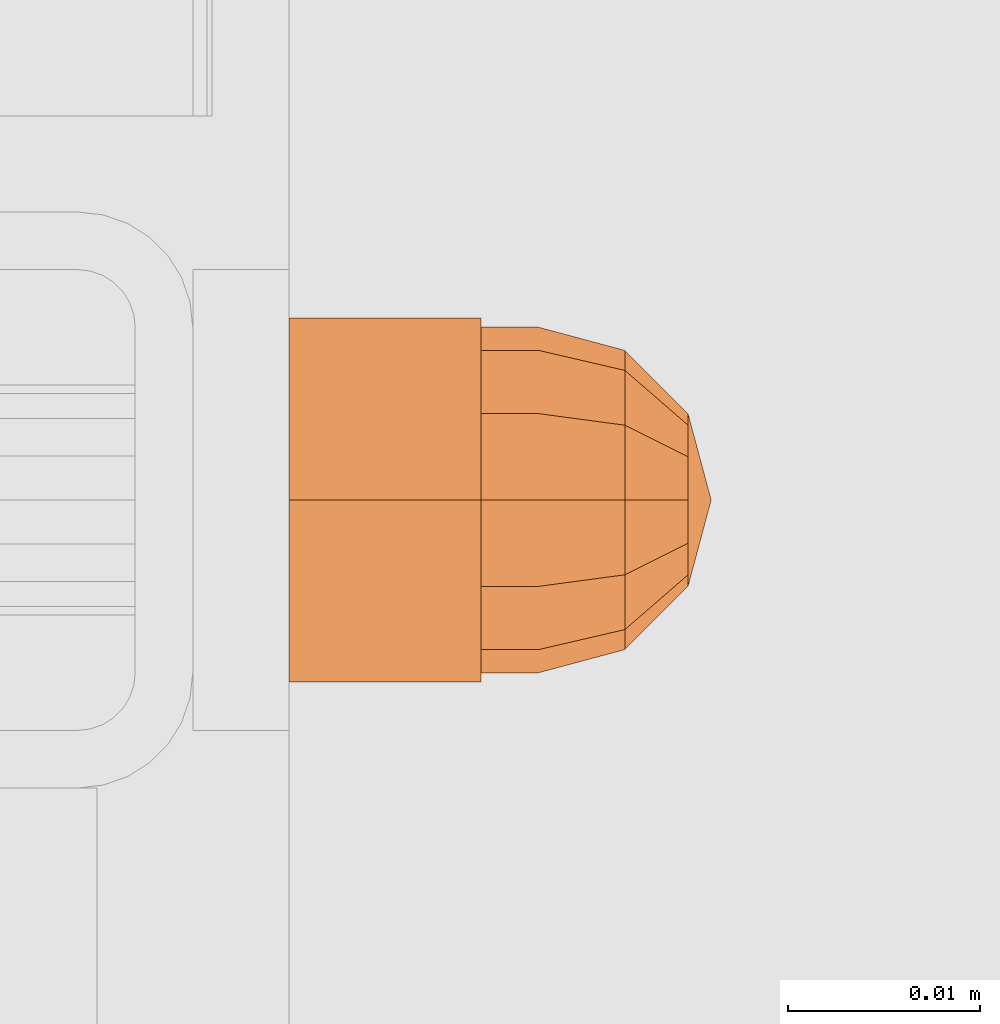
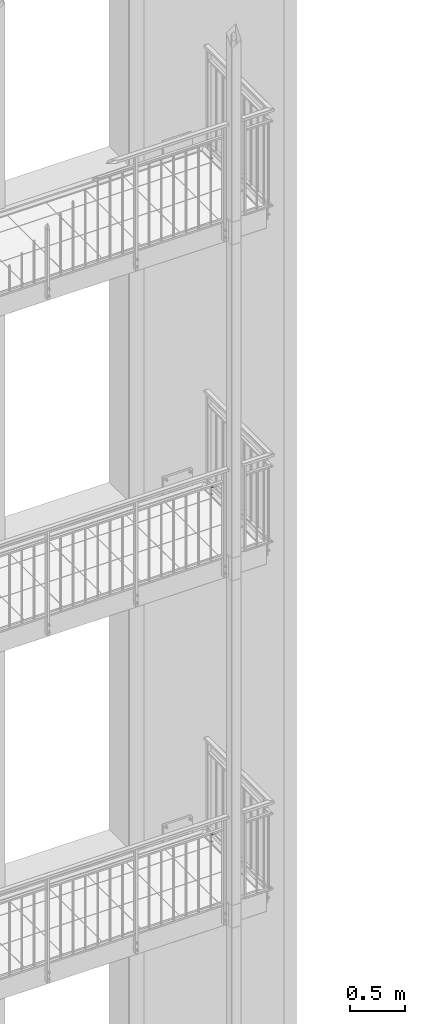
# One storey, part 161 of 162: 5 proxies.
"""IFC2X3 building model written with IfcOpenShell, lengths in millimetres."""

import ifcopenshell
import ifcopenshell.guid

model = None  # the IFC model being written
_history = None  # IfcOwnerHistory: only IFC2X3 demands one
_inside = {}  # id of a spatial element -> (the spatial element, [elements in it])
_under = {}  # id of a project, library or spatial element -> (it, [spatial elements below it])
_declared = {}  # id of a project -> (the project, [libraries it declares])
_typed = {}  # id of a type object -> (the type object, [elements of that type])
_made_of = {}  # id of a material, layer set ... -> (it, [elements and type objects made of it])


def new_model(schema):
    """Start an empty IFC model of exactly this schema.

    Asked for "IFC4X3", IfcOpenShell would pick the latest addendum, in which some entities
    have other attributes; the version numbers below select the first issue.
    IFC2X3 requires an IfcOwnerHistory on every rooted entity: one is made here for all.
    """
    global model, _history
    if schema == "IFC4X3":
        model = ifcopenshell.file(schema_version=(4, 3, 0, 0))
    else:
        model = ifcopenshell.file(schema=schema)
    _inside.clear()
    _under.clear()
    _declared.clear()
    _typed.clear()
    _made_of.clear()
    _history = None
    if model.schema == "IFC2X3":
        org = make("IfcOrganization", Name="unknown")
        user = make(
            "IfcPersonAndOrganization",
            ThePerson=make("IfcPerson", FamilyName="unknown"),
            TheOrganization=org,
        )
        app = make(
            "IfcApplication",
            ApplicationDeveloper=org,
            Version="unknown",
            ApplicationFullName="unknown",
            ApplicationIdentifier="unknown",
        )
        _history = make(
            "IfcOwnerHistory",
            OwningUser=user,
            OwningApplication=app,
            ChangeAction="ADDED",
            CreationDate=0,
        )
    return model


def make(cls, **values):
    """One entity of the class cls with the attributes given. An attribute that is None is left unset."""
    return model.create_entity(
        cls, **{name: value for name, value in values.items() if value is not None}
    )


def entity(cls, *values):
    """Any entity or typed value of the class cls, its attributes in the order of the schema. None: left unset."""
    e = model.create_entity(cls)
    for i, value in enumerate(values):
        if value is not None:
            e[i] = value
    return e


def rooted(cls, **values):
    """An entity with a GlobalId (a new one), such as an element, a storey or a relation."""
    return make(cls, GlobalId=ifcopenshell.guid.new(), OwnerHistory=_history, **values)


def si_unit(unit_type, name, prefix=None):
    """IfcSIUnit, for example si_unit("LENGTHUNIT", "METRE", prefix="MILLI")."""
    return make("IfcSIUnit", UnitType=unit_type, Prefix=prefix, Name=name)


def converted_unit(unit_type, name, factor, base, dimensions=None, offset=None):
    """IfcConversionBasedUnit, such as the inch: factor (a typed value) times the base unit."""
    return make(
        "IfcConversionBasedUnit"
        if offset is None
        else "IfcConversionBasedUnitWithOffset",
        ConversionOffset=offset,
        Dimensions=None
        if dimensions is None
        else entity("IfcDimensionalExponents", *dimensions),
        UnitType=unit_type,
        Name=name,
        ConversionFactor=make(
            "IfcMeasureWithUnit", ValueComponent=factor, UnitComponent=base
        ),
    )


def assignment(units):
    """IfcUnitAssignment: the units of a project."""
    return None if units is None else make("IfcUnitAssignment", Units=units)


def point(xyz):
    """IfcCartesianPoint."""
    return None if xyz is None else make("IfcCartesianPoint", Coordinates=xyz)


def direction(xyz):
    """IfcDirection."""
    return None if xyz is None else make("IfcDirection", DirectionRatios=xyz)


def frame(location, z_axis=None, x_axis=None):
    """IfcAxis2Placement3D, a coordinate frame: its origin and axes. An axis left out is left unset."""
    return make(
        "IfcAxis2Placement3D",
        Location=point(location),
        Axis=direction(z_axis),
        RefDirection=direction(x_axis),
    )


def origin_with_axes():
    """The frame at (0, 0, 0) with the z axis (0, 0, 1) and the x axis (1, 0, 0) written out."""
    return frame((0.0, 0.0, 0.0), z_axis=(0.0, 0.0, 1.0), x_axis=(1.0, 0.0, 0.0))


def place(relative_to, where):
    """IfcLocalPlacement: puts the frame where relative to a parent placement (None: the world)."""
    return make(
        "IfcLocalPlacement", PlacementRelTo=relative_to, RelativePlacement=where
    )


def context(
    kind, dimensions, precision=None, world=None, true_north=None, identifier=None
):
    """IfcGeometricRepresentationContext, for example the 3D "Model" context."""
    return make(
        "IfcGeometricRepresentationContext",
        ContextIdentifier=identifier,
        ContextType=kind,
        CoordinateSpaceDimension=dimensions,
        Precision=precision,
        WorldCoordinateSystem=world,
        TrueNorth=true_north,
    )


def project(units=None, contexts=None):
    """IfcProject with its units and contexts."""
    return rooted(
        "IfcProject",
        Name="project",
        RepresentationContexts=contexts,
        UnitsInContext=assignment(units),
    )


def spatial(cls, under=None, at=None, **own):
    """A site, building, storey or space (cls), placed at a placement, below another one or the project."""
    s = rooted(cls, ObjectPlacement=at, **own)
    if under is not None:
        _under.setdefault(under.id(), (under, []))[1].append(s)
    return s


def faces_of(points, faces, orient=None, outer=None):
    """IfcFace entities. A face is a list of loops; a loop is a list of indices into points, from 0.

    orient and outer hold one flag for each loop. By default every Orientation is true, the
    first loop of a face is its IfcFaceOuterBound and the others are IfcFaceBound.
    """
    made = []
    for i, loops in enumerate(faces):
        bounds = []
        for j, loop in enumerate(loops):
            is_outer = j == 0 if outer is None else outer[i][j]
            bounds.append(
                make(
                    "IfcFaceOuterBound" if is_outer else "IfcFaceBound",
                    Bound=make("IfcPolyLoop", Polygon=[points[k] for k in loop]),
                    Orientation=True if orient is None else orient[i][j],
                )
            )
        made.append(make("IfcFace", Bounds=bounds))
    return made


def faceted_brep(points, faces, orient=None, outer=None, voids=None):
    """IfcFacetedBrep: a solid bounded by flat faces; with voids (closed shells), ...WithVoids."""
    shared = [point(p) for p in points]
    hull = make("IfcClosedShell", CfsFaces=faces_of(shared, faces, orient, outer))
    if voids is None:
        return make("IfcFacetedBrep", Outer=hull)
    return make(
        "IfcFacetedBrepWithVoids",
        Outer=hull,
        Voids=[
            make(cls, CfsFaces=faces_of(shared, fs, o, b)) for cls, fs, o, b in voids
        ],
    )


def shape(context_of_items, identifier, shape_type, items):
    """IfcShapeRepresentation: the items that make up one representation, for example the "Body"."""
    return make(
        "IfcShapeRepresentation",
        ContextOfItems=context_of_items,
        RepresentationIdentifier=identifier,
        RepresentationType=shape_type,
        Items=items,
    )


def material(Name=None, Category=None):
    """IfcMaterial."""
    return make("IfcMaterial", Name=Name, Category=Category)


def made_of(thing, what):
    """Note that an element or type object is made of a material, layer set ...; save() writes the relation."""
    if what is not None:
        _made_of.setdefault(what.id(), (what, []))[1].append(thing)
    return thing


def element(
    cls,
    number,
    at=None,
    inside=None,
    cuts=None,
    type_object=None,
    material=None,
    context=None,
    identifier="Body",
    shape_type=None,
    held_by="IfcProductDefinitionShape",
    body=None,
    shapes=None,
    **own,
):
    """One element of the class cls, such as IfcWall. Its Tag is "e" and its number.

    at: its placement. inside: the storey or other place that contains it. cuts: it is an
    opening in that element (IfcRelVoidsElement). A single representation is given by context,
    identifier, shape_type and body (its items); several are given by shapes. held_by: the class
    of the entity that holds the representations. save() writes the other relations.
    """
    e = rooted(cls, Tag="e%d" % number, ObjectPlacement=at, **own)
    if body is not None:
        shapes = [shape(context, identifier, shape_type, body)]
    if shapes is not None:
        e.Representation = make(held_by, Representations=shapes)
    if inside is not None:
        _inside.setdefault(inside.id(), (inside, []))[1].append(e)
    if cuts is not None:
        rooted(
            "IfcRelVoidsElement", RelatingBuildingElement=cuts, RelatedOpeningElement=e
        )
    if type_object is not None:
        _typed.setdefault(type_object.id(), (type_object, []))[1].append(e)
    return made_of(e, material)


def aggregate(whole, parts):
    """IfcRelAggregates: a whole, such as a stair, and the parts it consists of."""
    return rooted("IfcRelAggregates", RelatingObject=whole, RelatedObjects=parts)


def save(model, path):
    """Write the relations noted so far, then the file.

    IfcRelAggregates (storeys below a building ...), IfcRelContainedInSpatialStructure (elements
    in a storey), IfcRelDefinesByType, IfcRelAssociatesMaterial and IfcRelDeclares: one each for
    every whole, place, type object, material and project.
    """
    for whole, parts in _under.values():
        aggregate(whole, parts)
    for where, things in _inside.values():
        rooted(
            "IfcRelContainedInSpatialStructure",
            RelatedElements=things,
            RelatingStructure=where,
        )
    for kind, things in _typed.values():
        rooted("IfcRelDefinesByType", RelatedObjects=things, RelatingType=kind)
    for what, things in _made_of.values():
        rooted("IfcRelAssociatesMaterial", RelatedObjects=things, RelatingMaterial=what)
    for by, libraries in _declared.values():
        rooted("IfcRelDeclares", RelatingContext=by, RelatedDefinitions=libraries)
    model.write(path)


model = new_model("IFC2X3")

# Units and contexts
model_context = context("Model", 3, precision=1e-09, world=origin_with_axes())
ifc_project = project(units=[si_unit("LENGTHUNIT", "METRE", prefix="MILLI"), si_unit("AREAUNIT", "SQUARE_METRE"), si_unit("VOLUMEUNIT", "CUBIC_METRE"), converted_unit("PLANEANGLEUNIT", "DEGREE", entity("IfcPlaneAngleMeasure", 0.01745329), si_unit("PLANEANGLEUNIT", "RADIAN"), dimensions=[0, 0, 0, 0, 0, 0, 0])], contexts=[model_context])

# Site, building, storey
site_placement = place(None, origin_with_axes())
site = spatial("IfcSite", under=ifc_project, at=site_placement, Name="Hermannstra?e 1a, 60318 Frankfurt", CompositionType="ELEMENT")
building_placement = place(site_placement, origin_with_axes())
building = spatial("IfcBuilding", under=site, at=building_placement, Name="Struktur 1", CompositionType="ELEMENT")
storey_placement = place(building_placement, origin_with_axes())
storey = spatial("IfcBuildingStorey", under=building, at=storey_placement, Name="Default Storey", CompositionType="ELEMENT", Elevation=0.0)

# Proxies
ifc_material = material(Name="Kein")
proxy_1_placement = place(None, origin_with_axes())
element("IfcBuildingElementProxy", 1, at=proxy_1_placement, inside=storey, material=ifc_material, ObjectType="-", context=model_context, shape_type="Brep", body=[
    faceted_brep([(5873.30936482, 2624.609373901, 3895.0), (5883.30936482, 2624.609373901, 3895.0), (5883.30936482, 2625.413221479, 3892.0), (5873.30936482, 2625.413221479, 3892.0), (5883.30936482, 2627.609373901, 3889.803847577), (5873.30936482, 2627.609373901, 3889.803847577), (5873.30936482, 2625.413221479, 3898.0), (5883.30936482, 2625.413221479, 3898.0), (5873.30936482, 2621.129504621, 3900.473205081), (5873.30936482, 2630.609373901, 3905.946410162), (5873.30936482, 2640.089243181, 3900.473205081), (5873.30936482, 2640.089243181, 3889.526794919), (5873.30936482, 2630.609373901, 3884.053589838), (5873.30936482, 2621.129504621, 3889.526794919), (5873.30936482, 2627.609373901, 3900.196152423), (5873.30936482, 2630.609373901, 3889.0), (5873.30936482, 2633.609373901, 3889.803847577), (5873.30936482, 2635.805526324, 3892.0), (5873.30936482, 2636.609373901, 3895.0), (5873.30936482, 2635.805526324, 3898.0), (5873.30936482, 2633.609373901, 3900.196152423), (5873.30936482, 2630.609373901, 3901.0), (5883.30936482, 2630.609373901, 3905.946410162), (5883.30936482, 2621.129504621, 3900.473205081), (5883.30936482, 2621.129504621, 3889.526794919), (5883.30936482, 2630.609373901, 3884.053589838), (5883.30936482, 2640.089243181, 3889.526794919), (5883.30936482, 2640.089243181, 3900.473205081), (5883.30936482, 2627.609373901, 3900.196152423), (5883.30936482, 2630.609373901, 3901.0), (5883.30936482, 2633.609373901, 3900.196152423), (5883.30936482, 2635.805526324, 3898.0), (5883.30936482, 2636.609373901, 3895.0), (5883.30936482, 2635.805526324, 3892.0), (5883.30936482, 2633.609373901, 3889.803847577), (5883.30936482, 2630.609373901, 3889.0)], [[[0, 1, 2, 3]], [[3, 2, 4, 5]], [[1, 0, 6, 7]], [[8, 9, 10, 11, 12, 13], [14, 6, 0, 3, 5, 15, 16, 17, 18, 19, 20, 21]], [[22, 23, 24, 25, 26, 27], [1, 7, 28, 29, 30, 31, 32, 33, 34, 35, 4, 2]], [[7, 6, 14, 28]], [[24, 23, 8, 13]], [[5, 4, 35, 15]], [[13, 12, 25, 24]], [[28, 14, 21, 29]], [[23, 22, 9, 8]], [[15, 35, 34, 16]], [[12, 11, 26, 25]], [[29, 21, 20, 30]], [[22, 27, 10, 9]], [[16, 34, 33, 17]], [[27, 26, 11, 10]], [[30, 20, 19, 31]], [[17, 33, 32, 18]], [[31, 19, 18, 32]]]),
    faceted_brep([(5883.30936482, 2630.609373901, 3904.0), (5886.30936482, 2630.609373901, 3904.0), (5886.30936482, 2635.109373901, 3902.794228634), (5883.30936482, 2635.109373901, 3902.794228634), (5883.30936482, 2626.109373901, 3902.794228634), (5886.30936482, 2626.109373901, 3902.794228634), (5886.30936482, 2622.815145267, 3890.5), (5886.30936482, 2626.109373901, 3887.205771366), (5886.30936482, 2630.609373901, 3886.0), (5886.30936482, 2635.109373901, 3887.205771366), (5886.30936482, 2638.403602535, 3890.5), (5886.30936482, 2639.609373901, 3895.0), (5886.30936482, 2638.403602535, 3899.5), (5886.30936482, 2622.815145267, 3899.5), (5886.30936482, 2621.609373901, 3895.0), (5883.30936482, 2638.403602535, 3890.5), (5883.30936482, 2635.109373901, 3887.205771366), (5883.30936482, 2630.609373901, 3886.0), (5883.30936482, 2626.109373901, 3887.205771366), (5883.30936482, 2622.815145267, 3890.5), (5883.30936482, 2621.609373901, 3895.0), (5883.30936482, 2622.815145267, 3899.5), (5883.30936482, 2638.403602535, 3899.5), (5883.30936482, 2639.609373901, 3895.0)], [[[0, 1, 2, 3]], [[1, 0, 4, 5]], [[6, 7, 8, 9, 10, 11, 12, 2, 1, 5, 13, 14]], [[15, 16, 17, 18, 19, 20, 21, 4, 0, 3, 22, 23]], [[3, 2, 12, 22]], [[5, 4, 21, 13]], [[22, 12, 11, 23]], [[13, 21, 20, 14]], [[7, 18, 17, 8]], [[19, 6, 14, 20]], [[18, 7, 6, 19]], [[23, 11, 10, 15]], [[8, 17, 16, 9]], [[15, 10, 9, 16]]]),
    faceted_brep([(5886.30936482, 2622.815145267, 3899.5), (5890.80936482, 2623.859373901, 3898.897114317), (5890.80936482, 2626.712259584, 3901.75), (5886.30936482, 2626.109373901, 3902.794228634), (5886.30936482, 2638.403602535, 3890.5), (5886.30936482, 2635.109373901, 3887.205771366), (5886.30936482, 2630.609373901, 3886.0), (5886.30936482, 2626.109373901, 3887.205771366), (5886.30936482, 2622.815145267, 3890.5), (5886.30936482, 2621.609373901, 3895.0), (5886.30936482, 2630.609373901, 3904.0), (5886.30936482, 2635.109373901, 3902.794228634), (5886.30936482, 2638.403602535, 3899.5), (5886.30936482, 2639.609373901, 3895.0), (5890.80936482, 2630.609373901, 3902.794228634), (5890.80936482, 2622.815145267, 3895.0), (5894.103593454, 2626.109373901, 3895.0), (5894.103593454, 2626.712259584, 3897.25), (5890.80936482, 2634.506488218, 3901.75), (5894.103593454, 2628.359373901, 3898.897114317), (5890.80936482, 2623.859373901, 3891.102885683), (5894.103593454, 2626.712259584, 3892.75), (5894.103593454, 2630.609373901, 3899.5), (5895.30936482, 2630.609373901, 3895.0), (5890.80936482, 2626.712259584, 3888.25), (5894.103593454, 2628.359373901, 3891.102885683), (5890.80936482, 2630.609373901, 3887.205771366), (5890.80936482, 2637.359373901, 3898.897114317), (5894.103593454, 2632.859373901, 3898.897114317), (5894.103593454, 2630.609373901, 3890.5), (5890.80936482, 2634.506488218, 3888.25), (5894.103593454, 2632.859373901, 3891.102885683), (5890.80936482, 2638.403602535, 3895.0), (5894.103593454, 2634.506488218, 3897.25), (5890.80936482, 2637.359373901, 3891.102885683), (5894.103593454, 2634.506488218, 3892.75), (5894.103593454, 2635.109373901, 3895.0)], [[[0, 1, 2, 3]], [[4, 5, 6, 7, 8, 9, 0, 3, 10, 11, 12, 13]], [[3, 2, 14, 10]], [[15, 16, 17, 1]], [[1, 0, 9, 15]], [[10, 14, 18, 11]], [[1, 17, 19, 2]], [[16, 15, 20, 21]], [[2, 19, 22, 14]], [[23, 17, 16]], [[24, 25, 21, 20]], [[23, 16, 21]], [[24, 7, 6, 26]], [[20, 8, 7, 24]], [[15, 9, 8, 20]], [[11, 18, 27, 12]], [[14, 22, 28, 18]], [[23, 19, 17]], [[26, 29, 25, 24]], [[23, 21, 25]], [[23, 22, 19]], [[26, 6, 5, 30]], [[29, 26, 30, 31]], [[23, 25, 29]], [[12, 27, 32, 13]], [[18, 28, 33, 27]], [[23, 28, 22]], [[23, 29, 31]], [[23, 33, 28]], [[30, 5, 4, 34]], [[31, 30, 34, 35]], [[23, 31, 35]], [[13, 32, 34, 4]], [[27, 33, 36, 32]], [[23, 36, 33]], [[23, 35, 36]], [[35, 34, 32, 36]]]),
])
proxy_2_placement = place(None, origin_with_axes())
element("IfcBuildingElementProxy", 2, at=proxy_2_placement, inside=storey, material=ifc_material, ObjectType="-", context=model_context, shape_type="Brep", body=[
    faceted_brep([(5873.30936482, 2624.609373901, 3815.0), (5883.30936482, 2624.609373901, 3815.0), (5883.30936482, 2625.413221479, 3812.0), (5873.30936482, 2625.413221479, 3812.0), (5883.30936482, 2627.609373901, 3809.803847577), (5873.30936482, 2627.609373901, 3809.803847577), (5873.30936482, 2625.413221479, 3818.0), (5883.30936482, 2625.413221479, 3818.0), (5873.30936482, 2621.129504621, 3820.473205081), (5873.30936482, 2630.609373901, 3825.946410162), (5873.30936482, 2640.089243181, 3820.473205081), (5873.30936482, 2640.089243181, 3809.526794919), (5873.30936482, 2630.609373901, 3804.053589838), (5873.30936482, 2621.129504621, 3809.526794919), (5873.30936482, 2627.609373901, 3820.196152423), (5873.30936482, 2630.609373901, 3809.0), (5873.30936482, 2633.609373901, 3809.803847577), (5873.30936482, 2635.805526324, 3812.0), (5873.30936482, 2636.609373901, 3815.0), (5873.30936482, 2635.805526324, 3818.0), (5873.30936482, 2633.609373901, 3820.196152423), (5873.30936482, 2630.609373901, 3821.0), (5883.30936482, 2630.609373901, 3825.946410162), (5883.30936482, 2621.129504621, 3820.473205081), (5883.30936482, 2621.129504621, 3809.526794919), (5883.30936482, 2630.609373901, 3804.053589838), (5883.30936482, 2640.089243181, 3809.526794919), (5883.30936482, 2640.089243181, 3820.473205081), (5883.30936482, 2627.609373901, 3820.196152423), (5883.30936482, 2630.609373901, 3821.0), (5883.30936482, 2633.609373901, 3820.196152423), (5883.30936482, 2635.805526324, 3818.0), (5883.30936482, 2636.609373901, 3815.0), (5883.30936482, 2635.805526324, 3812.0), (5883.30936482, 2633.609373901, 3809.803847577), (5883.30936482, 2630.609373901, 3809.0)], [[[0, 1, 2, 3]], [[3, 2, 4, 5]], [[1, 0, 6, 7]], [[8, 9, 10, 11, 12, 13], [14, 6, 0, 3, 5, 15, 16, 17, 18, 19, 20, 21]], [[22, 23, 24, 25, 26, 27], [1, 7, 28, 29, 30, 31, 32, 33, 34, 35, 4, 2]], [[7, 6, 14, 28]], [[24, 23, 8, 13]], [[5, 4, 35, 15]], [[13, 12, 25, 24]], [[28, 14, 21, 29]], [[23, 22, 9, 8]], [[15, 35, 34, 16]], [[12, 11, 26, 25]], [[29, 21, 20, 30]], [[22, 27, 10, 9]], [[16, 34, 33, 17]], [[27, 26, 11, 10]], [[30, 20, 19, 31]], [[17, 33, 32, 18]], [[31, 19, 18, 32]]]),
    faceted_brep([(5883.30936482, 2630.609373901, 3824.0), (5886.30936482, 2630.609373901, 3824.0), (5886.30936482, 2635.109373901, 3822.794228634), (5883.30936482, 2635.109373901, 3822.794228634), (5883.30936482, 2626.109373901, 3822.794228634), (5886.30936482, 2626.109373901, 3822.794228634), (5886.30936482, 2622.815145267, 3810.5), (5886.30936482, 2626.109373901, 3807.205771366), (5886.30936482, 2630.609373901, 3806.0), (5886.30936482, 2635.109373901, 3807.205771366), (5886.30936482, 2638.403602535, 3810.5), (5886.30936482, 2639.609373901, 3815.0), (5886.30936482, 2638.403602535, 3819.5), (5886.30936482, 2622.815145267, 3819.5), (5886.30936482, 2621.609373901, 3815.0), (5883.30936482, 2638.403602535, 3810.5), (5883.30936482, 2635.109373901, 3807.205771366), (5883.30936482, 2630.609373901, 3806.0), (5883.30936482, 2626.109373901, 3807.205771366), (5883.30936482, 2622.815145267, 3810.5), (5883.30936482, 2621.609373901, 3815.0), (5883.30936482, 2622.815145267, 3819.5), (5883.30936482, 2638.403602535, 3819.5), (5883.30936482, 2639.609373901, 3815.0)], [[[0, 1, 2, 3]], [[1, 0, 4, 5]], [[6, 7, 8, 9, 10, 11, 12, 2, 1, 5, 13, 14]], [[15, 16, 17, 18, 19, 20, 21, 4, 0, 3, 22, 23]], [[3, 2, 12, 22]], [[5, 4, 21, 13]], [[22, 12, 11, 23]], [[13, 21, 20, 14]], [[7, 18, 17, 8]], [[19, 6, 14, 20]], [[18, 7, 6, 19]], [[23, 11, 10, 15]], [[8, 17, 16, 9]], [[15, 10, 9, 16]]]),
    faceted_brep([(5886.30936482, 2622.815145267, 3819.5), (5890.80936482, 2623.859373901, 3818.897114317), (5890.80936482, 2626.712259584, 3821.75), (5886.30936482, 2626.109373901, 3822.794228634), (5886.30936482, 2638.403602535, 3810.5), (5886.30936482, 2635.109373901, 3807.205771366), (5886.30936482, 2630.609373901, 3806.0), (5886.30936482, 2626.109373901, 3807.205771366), (5886.30936482, 2622.815145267, 3810.5), (5886.30936482, 2621.609373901, 3815.0), (5886.30936482, 2630.609373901, 3824.0), (5886.30936482, 2635.109373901, 3822.794228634), (5886.30936482, 2638.403602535, 3819.5), (5886.30936482, 2639.609373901, 3815.0), (5890.80936482, 2630.609373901, 3822.794228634), (5890.80936482, 2622.815145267, 3815.0), (5894.103593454, 2626.109373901, 3815.0), (5894.103593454, 2626.712259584, 3817.25), (5890.80936482, 2634.506488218, 3821.75), (5894.103593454, 2628.359373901, 3818.897114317), (5890.80936482, 2623.859373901, 3811.102885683), (5894.103593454, 2626.712259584, 3812.75), (5894.103593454, 2630.609373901, 3819.5), (5895.30936482, 2630.609373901, 3815.0), (5890.80936482, 2626.712259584, 3808.25), (5894.103593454, 2628.359373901, 3811.102885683), (5890.80936482, 2630.609373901, 3807.205771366), (5890.80936482, 2637.359373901, 3818.897114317), (5894.103593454, 2632.859373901, 3818.897114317), (5894.103593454, 2630.609373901, 3810.5), (5890.80936482, 2634.506488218, 3808.25), (5894.103593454, 2632.859373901, 3811.102885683), (5890.80936482, 2638.403602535, 3815.0), (5894.103593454, 2634.506488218, 3817.25), (5890.80936482, 2637.359373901, 3811.102885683), (5894.103593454, 2634.506488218, 3812.75), (5894.103593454, 2635.109373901, 3815.0)], [[[0, 1, 2, 3]], [[4, 5, 6, 7, 8, 9, 0, 3, 10, 11, 12, 13]], [[3, 2, 14, 10]], [[15, 16, 17, 1]], [[1, 0, 9, 15]], [[10, 14, 18, 11]], [[1, 17, 19, 2]], [[16, 15, 20, 21]], [[2, 19, 22, 14]], [[23, 17, 16]], [[24, 25, 21, 20]], [[23, 16, 21]], [[24, 7, 6, 26]], [[20, 8, 7, 24]], [[15, 9, 8, 20]], [[11, 18, 27, 12]], [[14, 22, 28, 18]], [[23, 19, 17]], [[26, 29, 25, 24]], [[23, 21, 25]], [[23, 22, 19]], [[26, 6, 5, 30]], [[29, 26, 30, 31]], [[23, 25, 29]], [[12, 27, 32, 13]], [[18, 28, 33, 27]], [[23, 28, 22]], [[23, 29, 31]], [[23, 33, 28]], [[30, 5, 4, 34]], [[31, 30, 34, 35]], [[23, 31, 35]], [[13, 32, 34, 4]], [[27, 33, 36, 32]], [[23, 36, 33]], [[23, 35, 36]], [[35, 34, 32, 36]]]),
])
proxy_3_placement = place(None, origin_with_axes())
element("IfcBuildingElementProxy", 3, at=proxy_3_placement, inside=storey, material=ifc_material, ObjectType="-", context=model_context, shape_type="Brep", body=[
    faceted_brep([(5873.30936482, 2624.609373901, 7640.0), (5883.30936482, 2624.609373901, 7640.0), (5883.30936482, 2625.413221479, 7637.0), (5873.30936482, 2625.413221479, 7637.0), (5883.30936482, 2627.609373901, 7634.803847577), (5873.30936482, 2627.609373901, 7634.803847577), (5873.30936482, 2625.413221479, 7643.0), (5883.30936482, 2625.413221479, 7643.0), (5873.30936482, 2621.129504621, 7645.473205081), (5873.30936482, 2630.609373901, 7650.946410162), (5873.30936482, 2640.089243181, 7645.473205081), (5873.30936482, 2640.089243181, 7634.526794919), (5873.30936482, 2630.609373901, 7629.053589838), (5873.30936482, 2621.129504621, 7634.526794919), (5873.30936482, 2627.609373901, 7645.196152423), (5873.30936482, 2630.609373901, 7634.0), (5873.30936482, 2633.609373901, 7634.803847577), (5873.30936482, 2635.805526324, 7637.0), (5873.30936482, 2636.609373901, 7640.0), (5873.30936482, 2635.805526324, 7643.0), (5873.30936482, 2633.609373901, 7645.196152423), (5873.30936482, 2630.609373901, 7646.0), (5883.30936482, 2630.609373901, 7650.946410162), (5883.30936482, 2621.129504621, 7645.473205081), (5883.30936482, 2621.129504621, 7634.526794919), (5883.30936482, 2630.609373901, 7629.053589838), (5883.30936482, 2640.089243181, 7634.526794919), (5883.30936482, 2640.089243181, 7645.473205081), (5883.30936482, 2627.609373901, 7645.196152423), (5883.30936482, 2630.609373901, 7646.0), (5883.30936482, 2633.609373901, 7645.196152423), (5883.30936482, 2635.805526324, 7643.0), (5883.30936482, 2636.609373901, 7640.0), (5883.30936482, 2635.805526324, 7637.0), (5883.30936482, 2633.609373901, 7634.803847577), (5883.30936482, 2630.609373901, 7634.0)], [[[0, 1, 2, 3]], [[3, 2, 4, 5]], [[1, 0, 6, 7]], [[8, 9, 10, 11, 12, 13], [14, 6, 0, 3, 5, 15, 16, 17, 18, 19, 20, 21]], [[22, 23, 24, 25, 26, 27], [1, 7, 28, 29, 30, 31, 32, 33, 34, 35, 4, 2]], [[7, 6, 14, 28]], [[24, 23, 8, 13]], [[5, 4, 35, 15]], [[13, 12, 25, 24]], [[28, 14, 21, 29]], [[23, 22, 9, 8]], [[15, 35, 34, 16]], [[12, 11, 26, 25]], [[29, 21, 20, 30]], [[22, 27, 10, 9]], [[16, 34, 33, 17]], [[27, 26, 11, 10]], [[30, 20, 19, 31]], [[17, 33, 32, 18]], [[31, 19, 18, 32]]]),
    faceted_brep([(5883.30936482, 2630.609373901, 7649.0), (5886.30936482, 2630.609373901, 7649.0), (5886.30936482, 2635.109373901, 7647.794228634), (5883.30936482, 2635.109373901, 7647.794228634), (5883.30936482, 2626.109373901, 7647.794228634), (5886.30936482, 2626.109373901, 7647.794228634), (5886.30936482, 2622.815145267, 7635.5), (5886.30936482, 2626.109373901, 7632.205771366), (5886.30936482, 2630.609373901, 7631.0), (5886.30936482, 2635.109373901, 7632.205771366), (5886.30936482, 2638.403602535, 7635.5), (5886.30936482, 2639.609373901, 7640.0), (5886.30936482, 2638.403602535, 7644.5), (5886.30936482, 2622.815145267, 7644.5), (5886.30936482, 2621.609373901, 7640.0), (5883.30936482, 2638.403602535, 7635.5), (5883.30936482, 2635.109373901, 7632.205771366), (5883.30936482, 2630.609373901, 7631.0), (5883.30936482, 2626.109373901, 7632.205771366), (5883.30936482, 2622.815145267, 7635.5), (5883.30936482, 2621.609373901, 7640.0), (5883.30936482, 2622.815145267, 7644.5), (5883.30936482, 2638.403602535, 7644.5), (5883.30936482, 2639.609373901, 7640.0)], [[[0, 1, 2, 3]], [[1, 0, 4, 5]], [[6, 7, 8, 9, 10, 11, 12, 2, 1, 5, 13, 14]], [[15, 16, 17, 18, 19, 20, 21, 4, 0, 3, 22, 23]], [[3, 2, 12, 22]], [[5, 4, 21, 13]], [[22, 12, 11, 23]], [[13, 21, 20, 14]], [[7, 18, 17, 8]], [[19, 6, 14, 20]], [[18, 7, 6, 19]], [[23, 11, 10, 15]], [[8, 17, 16, 9]], [[15, 10, 9, 16]]]),
    faceted_brep([(5886.30936482, 2622.815145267, 7644.5), (5890.80936482, 2623.859373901, 7643.897114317), (5890.80936482, 2626.712259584, 7646.75), (5886.30936482, 2626.109373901, 7647.794228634), (5886.30936482, 2638.403602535, 7635.5), (5886.30936482, 2635.109373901, 7632.205771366), (5886.30936482, 2630.609373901, 7631.0), (5886.30936482, 2626.109373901, 7632.205771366), (5886.30936482, 2622.815145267, 7635.5), (5886.30936482, 2621.609373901, 7640.0), (5886.30936482, 2630.609373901, 7649.0), (5886.30936482, 2635.109373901, 7647.794228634), (5886.30936482, 2638.403602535, 7644.5), (5886.30936482, 2639.609373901, 7640.0), (5890.80936482, 2630.609373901, 7647.794228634), (5890.80936482, 2622.815145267, 7640.0), (5894.103593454, 2626.109373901, 7640.0), (5894.103593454, 2626.712259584, 7642.25), (5890.80936482, 2634.506488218, 7646.75), (5894.103593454, 2628.359373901, 7643.897114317), (5890.80936482, 2623.859373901, 7636.102885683), (5894.103593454, 2626.712259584, 7637.75), (5894.103593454, 2630.609373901, 7644.5), (5895.30936482, 2630.609373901, 7640.0), (5890.80936482, 2626.712259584, 7633.25), (5894.103593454, 2628.359373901, 7636.102885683), (5890.80936482, 2630.609373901, 7632.205771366), (5890.80936482, 2637.359373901, 7643.897114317), (5894.103593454, 2632.859373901, 7643.897114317), (5894.103593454, 2630.609373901, 7635.5), (5890.80936482, 2634.506488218, 7633.25), (5894.103593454, 2632.859373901, 7636.102885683), (5890.80936482, 2638.403602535, 7640.0), (5894.103593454, 2634.506488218, 7642.25), (5890.80936482, 2637.359373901, 7636.102885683), (5894.103593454, 2634.506488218, 7637.75), (5894.103593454, 2635.109373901, 7640.0)], [[[0, 1, 2, 3]], [[4, 5, 6, 7, 8, 9, 0, 3, 10, 11, 12, 13]], [[3, 2, 14, 10]], [[15, 16, 17, 1]], [[1, 0, 9, 15]], [[10, 14, 18, 11]], [[1, 17, 19, 2]], [[16, 15, 20, 21]], [[2, 19, 22, 14]], [[23, 17, 16]], [[24, 25, 21, 20]], [[23, 16, 21]], [[24, 7, 6, 26]], [[20, 8, 7, 24]], [[15, 9, 8, 20]], [[11, 18, 27, 12]], [[14, 22, 28, 18]], [[23, 19, 17]], [[26, 29, 25, 24]], [[23, 21, 25]], [[23, 22, 19]], [[26, 6, 5, 30]], [[29, 26, 30, 31]], [[23, 25, 29]], [[12, 27, 32, 13]], [[18, 28, 33, 27]], [[23, 28, 22]], [[23, 29, 31]], [[23, 33, 28]], [[30, 5, 4, 34]], [[31, 30, 34, 35]], [[23, 31, 35]], [[13, 32, 34, 4]], [[27, 33, 36, 32]], [[23, 36, 33]], [[23, 35, 36]], [[35, 34, 32, 36]]]),
])
proxy_4_placement = place(None, origin_with_axes())
element("IfcBuildingElementProxy", 4, at=proxy_4_placement, inside=storey, material=ifc_material, ObjectType="-", context=model_context, shape_type="Brep", body=[
    faceted_brep([(5873.30936482, 2624.609373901, 7720.0), (5883.30936482, 2624.609373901, 7720.0), (5883.30936482, 2625.413221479, 7717.0), (5873.30936482, 2625.413221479, 7717.0), (5883.30936482, 2627.609373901, 7714.803847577), (5873.30936482, 2627.609373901, 7714.803847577), (5873.30936482, 2625.413221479, 7723.0), (5883.30936482, 2625.413221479, 7723.0), (5873.30936482, 2621.129504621, 7725.473205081), (5873.30936482, 2630.609373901, 7730.946410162), (5873.30936482, 2640.089243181, 7725.473205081), (5873.30936482, 2640.089243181, 7714.526794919), (5873.30936482, 2630.609373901, 7709.053589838), (5873.30936482, 2621.129504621, 7714.526794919), (5873.30936482, 2627.609373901, 7725.196152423), (5873.30936482, 2630.609373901, 7714.0), (5873.30936482, 2633.609373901, 7714.803847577), (5873.30936482, 2635.805526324, 7717.0), (5873.30936482, 2636.609373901, 7720.0), (5873.30936482, 2635.805526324, 7723.0), (5873.30936482, 2633.609373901, 7725.196152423), (5873.30936482, 2630.609373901, 7726.0), (5883.30936482, 2630.609373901, 7730.946410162), (5883.30936482, 2621.129504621, 7725.473205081), (5883.30936482, 2621.129504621, 7714.526794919), (5883.30936482, 2630.609373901, 7709.053589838), (5883.30936482, 2640.089243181, 7714.526794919), (5883.30936482, 2640.089243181, 7725.473205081), (5883.30936482, 2627.609373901, 7725.196152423), (5883.30936482, 2630.609373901, 7726.0), (5883.30936482, 2633.609373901, 7725.196152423), (5883.30936482, 2635.805526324, 7723.0), (5883.30936482, 2636.609373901, 7720.0), (5883.30936482, 2635.805526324, 7717.0), (5883.30936482, 2633.609373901, 7714.803847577), (5883.30936482, 2630.609373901, 7714.0)], [[[0, 1, 2, 3]], [[3, 2, 4, 5]], [[1, 0, 6, 7]], [[8, 9, 10, 11, 12, 13], [14, 6, 0, 3, 5, 15, 16, 17, 18, 19, 20, 21]], [[22, 23, 24, 25, 26, 27], [1, 7, 28, 29, 30, 31, 32, 33, 34, 35, 4, 2]], [[7, 6, 14, 28]], [[24, 23, 8, 13]], [[5, 4, 35, 15]], [[13, 12, 25, 24]], [[28, 14, 21, 29]], [[23, 22, 9, 8]], [[15, 35, 34, 16]], [[12, 11, 26, 25]], [[29, 21, 20, 30]], [[22, 27, 10, 9]], [[16, 34, 33, 17]], [[27, 26, 11, 10]], [[30, 20, 19, 31]], [[17, 33, 32, 18]], [[31, 19, 18, 32]]]),
    faceted_brep([(5883.30936482, 2630.609373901, 7729.0), (5886.30936482, 2630.609373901, 7729.0), (5886.30936482, 2635.109373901, 7727.794228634), (5883.30936482, 2635.109373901, 7727.794228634), (5883.30936482, 2626.109373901, 7727.794228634), (5886.30936482, 2626.109373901, 7727.794228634), (5886.30936482, 2622.815145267, 7715.5), (5886.30936482, 2626.109373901, 7712.205771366), (5886.30936482, 2630.609373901, 7711.0), (5886.30936482, 2635.109373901, 7712.205771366), (5886.30936482, 2638.403602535, 7715.5), (5886.30936482, 2639.609373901, 7720.0), (5886.30936482, 2638.403602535, 7724.5), (5886.30936482, 2622.815145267, 7724.5), (5886.30936482, 2621.609373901, 7720.0), (5883.30936482, 2638.403602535, 7715.5), (5883.30936482, 2635.109373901, 7712.205771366), (5883.30936482, 2630.609373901, 7711.0), (5883.30936482, 2626.109373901, 7712.205771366), (5883.30936482, 2622.815145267, 7715.5), (5883.30936482, 2621.609373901, 7720.0), (5883.30936482, 2622.815145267, 7724.5), (5883.30936482, 2638.403602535, 7724.5), (5883.30936482, 2639.609373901, 7720.0)], [[[0, 1, 2, 3]], [[1, 0, 4, 5]], [[6, 7, 8, 9, 10, 11, 12, 2, 1, 5, 13, 14]], [[15, 16, 17, 18, 19, 20, 21, 4, 0, 3, 22, 23]], [[3, 2, 12, 22]], [[5, 4, 21, 13]], [[22, 12, 11, 23]], [[13, 21, 20, 14]], [[7, 18, 17, 8]], [[19, 6, 14, 20]], [[18, 7, 6, 19]], [[23, 11, 10, 15]], [[8, 17, 16, 9]], [[15, 10, 9, 16]]]),
    faceted_brep([(5886.30936482, 2622.815145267, 7724.5), (5890.80936482, 2623.859373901, 7723.897114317), (5890.80936482, 2626.712259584, 7726.75), (5886.30936482, 2626.109373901, 7727.794228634), (5886.30936482, 2638.403602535, 7715.5), (5886.30936482, 2635.109373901, 7712.205771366), (5886.30936482, 2630.609373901, 7711.0), (5886.30936482, 2626.109373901, 7712.205771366), (5886.30936482, 2622.815145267, 7715.5), (5886.30936482, 2621.609373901, 7720.0), (5886.30936482, 2630.609373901, 7729.0), (5886.30936482, 2635.109373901, 7727.794228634), (5886.30936482, 2638.403602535, 7724.5), (5886.30936482, 2639.609373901, 7720.0), (5890.80936482, 2630.609373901, 7727.794228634), (5890.80936482, 2622.815145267, 7720.0), (5894.103593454, 2626.109373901, 7720.0), (5894.103593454, 2626.712259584, 7722.25), (5890.80936482, 2634.506488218, 7726.75), (5894.103593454, 2628.359373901, 7723.897114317), (5890.80936482, 2623.859373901, 7716.102885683), (5894.103593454, 2626.712259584, 7717.75), (5894.103593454, 2630.609373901, 7724.5), (5895.30936482, 2630.609373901, 7720.0), (5890.80936482, 2626.712259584, 7713.25), (5894.103593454, 2628.359373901, 7716.102885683), (5890.80936482, 2630.609373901, 7712.205771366), (5890.80936482, 2637.359373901, 7723.897114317), (5894.103593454, 2632.859373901, 7723.897114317), (5894.103593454, 2630.609373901, 7715.5), (5890.80936482, 2634.506488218, 7713.25), (5894.103593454, 2632.859373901, 7716.102885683), (5890.80936482, 2638.403602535, 7720.0), (5894.103593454, 2634.506488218, 7722.25), (5890.80936482, 2637.359373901, 7716.102885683), (5894.103593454, 2634.506488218, 7717.75), (5894.103593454, 2635.109373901, 7720.0)], [[[0, 1, 2, 3]], [[4, 5, 6, 7, 8, 9, 0, 3, 10, 11, 12, 13]], [[3, 2, 14, 10]], [[15, 16, 17, 1]], [[1, 0, 9, 15]], [[10, 14, 18, 11]], [[1, 17, 19, 2]], [[16, 15, 20, 21]], [[2, 19, 22, 14]], [[23, 17, 16]], [[24, 25, 21, 20]], [[23, 16, 21]], [[24, 7, 6, 26]], [[20, 8, 7, 24]], [[15, 9, 8, 20]], [[11, 18, 27, 12]], [[14, 22, 28, 18]], [[23, 19, 17]], [[26, 29, 25, 24]], [[23, 21, 25]], [[23, 22, 19]], [[26, 6, 5, 30]], [[29, 26, 30, 31]], [[23, 25, 29]], [[12, 27, 32, 13]], [[18, 28, 33, 27]], [[23, 28, 22]], [[23, 29, 31]], [[23, 33, 28]], [[30, 5, 4, 34]], [[31, 30, 34, 35]], [[23, 31, 35]], [[13, 32, 34, 4]], [[27, 33, 36, 32]], [[23, 36, 33]], [[23, 35, 36]], [[35, 34, 32, 36]]]),
])
proxy_5_placement = place(None, origin_with_axes())
element("IfcBuildingElementProxy", 5, at=proxy_5_placement, inside=storey, material=ifc_material, ObjectType="-", context=model_context, shape_type="Brep", body=[
    faceted_brep([(5873.30936482, 2624.609373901, 11339.999), (5883.30936482, 2624.609373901, 11339.999), (5883.30936482, 2625.413221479, 11336.999), (5873.30936482, 2625.413221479, 11336.999), (5883.30936482, 2627.609373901, 11334.802847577), (5873.30936482, 2627.609373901, 11334.802847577), (5873.30936482, 2625.413221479, 11342.999), (5883.30936482, 2625.413221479, 11342.999), (5873.30936482, 2621.129504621, 11345.472205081), (5873.30936482, 2630.609373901, 11350.945410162), (5873.30936482, 2640.089243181, 11345.472205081), (5873.30936482, 2640.089243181, 11334.525794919), (5873.30936482, 2630.609373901, 11329.052589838), (5873.30936482, 2621.129504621, 11334.525794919), (5873.30936482, 2627.609373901, 11345.195152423), (5873.30936482, 2630.609373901, 11333.999), (5873.30936482, 2633.609373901, 11334.802847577), (5873.30936482, 2635.805526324, 11336.999), (5873.30936482, 2636.609373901, 11339.999), (5873.30936482, 2635.805526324, 11342.999), (5873.30936482, 2633.609373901, 11345.195152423), (5873.30936482, 2630.609373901, 11345.999), (5883.30936482, 2630.609373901, 11350.945410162), (5883.30936482, 2621.129504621, 11345.472205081), (5883.30936482, 2621.129504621, 11334.525794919), (5883.30936482, 2630.609373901, 11329.052589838), (5883.30936482, 2640.089243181, 11334.525794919), (5883.30936482, 2640.089243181, 11345.472205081), (5883.30936482, 2627.609373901, 11345.195152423), (5883.30936482, 2630.609373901, 11345.999), (5883.30936482, 2633.609373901, 11345.195152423), (5883.30936482, 2635.805526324, 11342.999), (5883.30936482, 2636.609373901, 11339.999), (5883.30936482, 2635.805526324, 11336.999), (5883.30936482, 2633.609373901, 11334.802847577), (5883.30936482, 2630.609373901, 11333.999)], [[[0, 1, 2, 3]], [[3, 2, 4, 5]], [[1, 0, 6, 7]], [[8, 9, 10, 11, 12, 13], [14, 6, 0, 3, 5, 15, 16, 17, 18, 19, 20, 21]], [[22, 23, 24, 25, 26, 27], [1, 7, 28, 29, 30, 31, 32, 33, 34, 35, 4, 2]], [[7, 6, 14, 28]], [[24, 23, 8, 13]], [[5, 4, 35, 15]], [[13, 12, 25, 24]], [[28, 14, 21, 29]], [[23, 22, 9, 8]], [[15, 35, 34, 16]], [[12, 11, 26, 25]], [[29, 21, 20, 30]], [[22, 27, 10, 9]], [[16, 34, 33, 17]], [[27, 26, 11, 10]], [[30, 20, 19, 31]], [[17, 33, 32, 18]], [[31, 19, 18, 32]]]),
    faceted_brep([(5883.30936482, 2630.609373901, 11348.999), (5886.30936482, 2630.609373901, 11348.999), (5886.30936482, 2635.109373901, 11347.793228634), (5883.30936482, 2635.109373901, 11347.793228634), (5883.30936482, 2626.109373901, 11347.793228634), (5886.30936482, 2626.109373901, 11347.793228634), (5886.30936482, 2622.815145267, 11335.499), (5886.30936482, 2626.109373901, 11332.204771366), (5886.30936482, 2630.609373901, 11330.999), (5886.30936482, 2635.109373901, 11332.204771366), (5886.30936482, 2638.403602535, 11335.499), (5886.30936482, 2639.609373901, 11339.999), (5886.30936482, 2638.403602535, 11344.499), (5886.30936482, 2622.815145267, 11344.499), (5886.30936482, 2621.609373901, 11339.999), (5883.30936482, 2638.403602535, 11335.499), (5883.30936482, 2635.109373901, 11332.204771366), (5883.30936482, 2630.609373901, 11330.999), (5883.30936482, 2626.109373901, 11332.204771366), (5883.30936482, 2622.815145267, 11335.499), (5883.30936482, 2621.609373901, 11339.999), (5883.30936482, 2622.815145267, 11344.499), (5883.30936482, 2638.403602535, 11344.499), (5883.30936482, 2639.609373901, 11339.999)], [[[0, 1, 2, 3]], [[1, 0, 4, 5]], [[6, 7, 8, 9, 10, 11, 12, 2, 1, 5, 13, 14]], [[15, 16, 17, 18, 19, 20, 21, 4, 0, 3, 22, 23]], [[3, 2, 12, 22]], [[5, 4, 21, 13]], [[22, 12, 11, 23]], [[13, 21, 20, 14]], [[7, 18, 17, 8]], [[19, 6, 14, 20]], [[18, 7, 6, 19]], [[23, 11, 10, 15]], [[8, 17, 16, 9]], [[15, 10, 9, 16]]]),
    faceted_brep([(5886.30936482, 2622.815145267, 11344.499), (5890.80936482, 2623.859373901, 11343.896114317), (5890.80936482, 2626.712259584, 11346.749), (5886.30936482, 2626.109373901, 11347.793228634), (5886.30936482, 2638.403602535, 11335.499), (5886.30936482, 2635.109373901, 11332.204771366), (5886.30936482, 2630.609373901, 11330.999), (5886.30936482, 2626.109373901, 11332.204771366), (5886.30936482, 2622.815145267, 11335.499), (5886.30936482, 2621.609373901, 11339.999), (5886.30936482, 2630.609373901, 11348.999), (5886.30936482, 2635.109373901, 11347.793228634), (5886.30936482, 2638.403602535, 11344.499), (5886.30936482, 2639.609373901, 11339.999), (5890.80936482, 2630.609373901, 11347.793228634), (5890.80936482, 2622.815145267, 11339.999), (5894.103593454, 2626.109373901, 11339.999), (5894.103593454, 2626.712259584, 11342.249), (5890.80936482, 2634.506488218, 11346.749), (5894.103593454, 2628.359373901, 11343.896114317), (5890.80936482, 2623.859373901, 11336.101885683), (5894.103593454, 2626.712259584, 11337.749), (5894.103593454, 2630.609373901, 11344.499), (5895.30936482, 2630.609373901, 11339.999), (5890.80936482, 2626.712259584, 11333.249), (5894.103593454, 2628.359373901, 11336.101885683), (5890.80936482, 2630.609373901, 11332.204771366), (5890.80936482, 2637.359373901, 11343.896114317), (5894.103593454, 2632.859373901, 11343.896114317), (5894.103593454, 2630.609373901, 11335.499), (5890.80936482, 2634.506488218, 11333.249), (5894.103593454, 2632.859373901, 11336.101885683), (5890.80936482, 2638.403602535, 11339.999), (5894.103593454, 2634.506488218, 11342.249), (5890.80936482, 2637.359373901, 11336.101885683), (5894.103593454, 2634.506488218, 11337.749), (5894.103593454, 2635.109373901, 11339.999)], [[[0, 1, 2, 3]], [[4, 5, 6, 7, 8, 9, 0, 3, 10, 11, 12, 13]], [[3, 2, 14, 10]], [[15, 16, 17, 1]], [[1, 0, 9, 15]], [[10, 14, 18, 11]], [[1, 17, 19, 2]], [[16, 15, 20, 21]], [[2, 19, 22, 14]], [[23, 17, 16]], [[24, 25, 21, 20]], [[23, 16, 21]], [[24, 7, 6, 26]], [[20, 8, 7, 24]], [[15, 9, 8, 20]], [[11, 18, 27, 12]], [[14, 22, 28, 18]], [[23, 19, 17]], [[26, 29, 25, 24]], [[23, 21, 25]], [[23, 22, 19]], [[26, 6, 5, 30]], [[29, 26, 30, 31]], [[23, 25, 29]], [[12, 27, 32, 13]], [[18, 28, 33, 27]], [[23, 28, 22]], [[23, 29, 31]], [[23, 33, 28]], [[30, 5, 4, 34]], [[31, 30, 34, 35]], [[23, 31, 35]], [[13, 32, 34, 4]], [[27, 33, 36, 32]], [[23, 36, 33]], [[23, 35, 36]], [[35, 34, 32, 36]]]),
])

save(model, "model.ifc")
